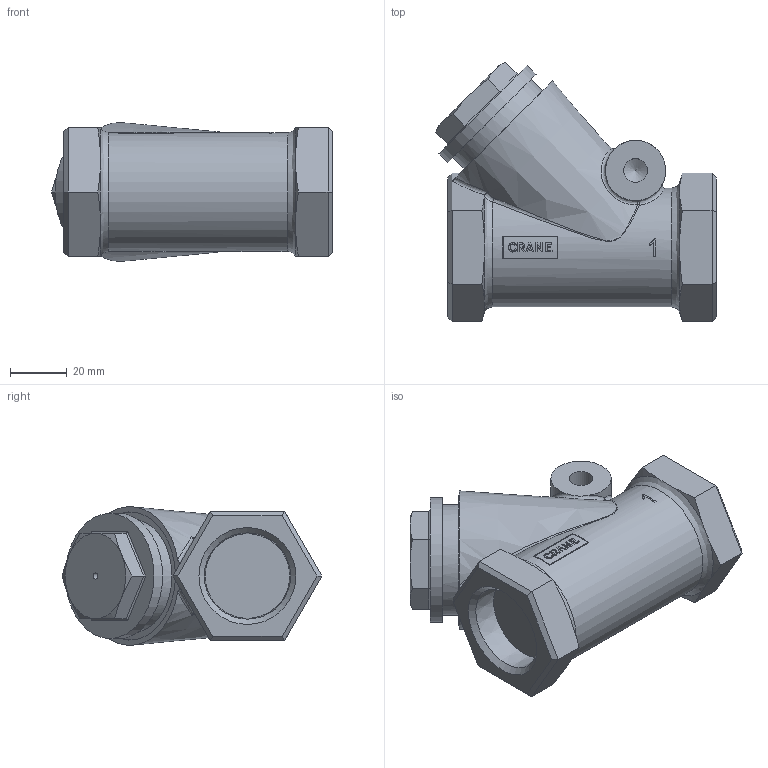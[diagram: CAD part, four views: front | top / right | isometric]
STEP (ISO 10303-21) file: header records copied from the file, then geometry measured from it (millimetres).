
FILE_DESCRIPTION((''),'2;1');
FILE_NAME('P:\Fastrack\53972_CRANE 3D\D142-138\Workspace\Check Valves\D142_1in\D142_1in.stp','2011-03-03T11:43:42',('btaylor'),(''),'Autodesk Inventor 2008','Autodesk Inventor 2008','');
FILE_SCHEMA(('AUTOMOTIVE_DESIGN { 1 0 10303 214 1 1 1 1 }'));
Length unit declared in the file: millimetre
Products named in the file (1): D142_1in
Bounding box: 98.49 x 91.09 x 48.71 mm (x, y, z)
Volume: 165569.8 mm3; surface area: 36484.5 mm2
Topology: 1 solids, 2 shells, 399 faces, 1084 edges, 710 vertices
Faces by surface type: bspline 208, plane 125, cylinder 32, cone 31, torus 2, sphere 1
Full cylindrical faces by diameter (mm): 2.2 x1, 38.9 x1, 40 x1, 41.656 x1, 43.9 x1
Entity records: 50761 total; most frequent: CARTESIAN_POINT 42033, ORIENTED_EDGE 2124, EDGE_CURVE 1062, DIRECTION 1017, VERTEX_POINT 705, B_SPLINE_CURVE_WITH_KNOTS 503, EDGE_LOOP 437, STYLED_ITEM 400
